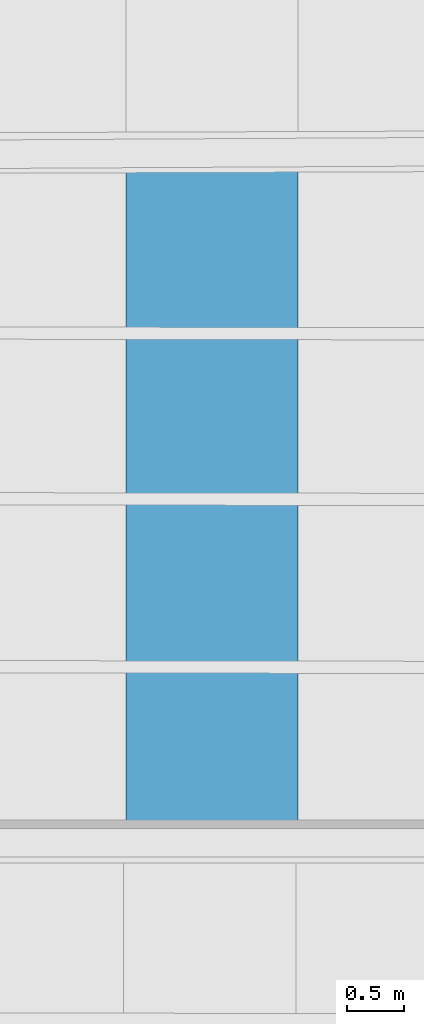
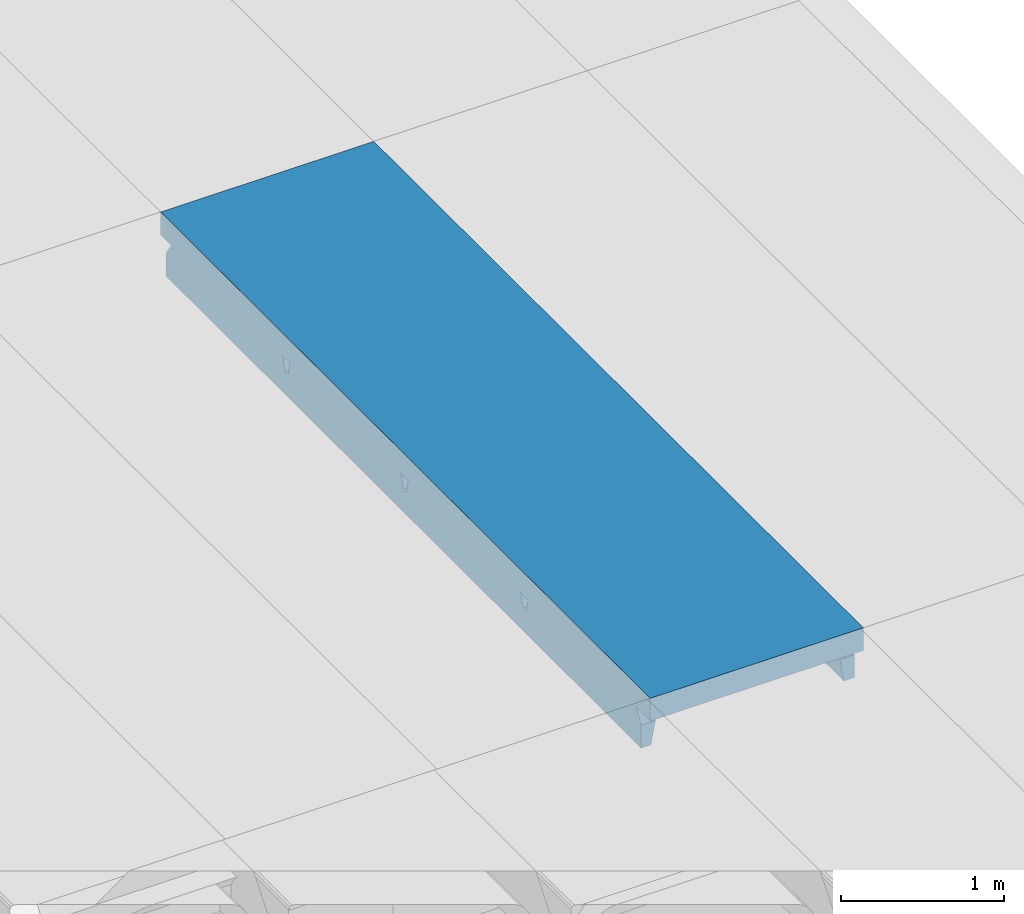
# One storey, part 57 of 301: 1 beam.
"""IFC2X3 building model written with IfcOpenShell, lengths in millimetres."""

import ifcopenshell
import ifcopenshell.guid

model = None  # the IFC model being written
_history = None  # IfcOwnerHistory: only IFC2X3 demands one
_inside = {}  # id of a spatial element -> (the spatial element, [elements in it])
_under = {}  # id of a project, library or spatial element -> (it, [spatial elements below it])
_declared = {}  # id of a project -> (the project, [libraries it declares])
_typed = {}  # id of a type object -> (the type object, [elements of that type])
_made_of = {}  # id of a material, layer set ... -> (it, [elements and type objects made of it])


def new_model(schema):
    """Start an empty IFC model of exactly this schema.

    Asked for "IFC4X3", IfcOpenShell would pick the latest addendum, in which some entities
    have other attributes; the version numbers below select the first issue.
    IFC2X3 requires an IfcOwnerHistory on every rooted entity: one is made here for all.
    """
    global model, _history
    if schema == "IFC4X3":
        model = ifcopenshell.file(schema_version=(4, 3, 0, 0))
    else:
        model = ifcopenshell.file(schema=schema)
    _inside.clear()
    _under.clear()
    _declared.clear()
    _typed.clear()
    _made_of.clear()
    _history = None
    if model.schema == "IFC2X3":
        org = make("IfcOrganization", Name="unknown")
        user = make(
            "IfcPersonAndOrganization",
            ThePerson=make("IfcPerson", FamilyName="unknown"),
            TheOrganization=org,
        )
        app = make(
            "IfcApplication",
            ApplicationDeveloper=org,
            Version="unknown",
            ApplicationFullName="unknown",
            ApplicationIdentifier="unknown",
        )
        _history = make(
            "IfcOwnerHistory",
            OwningUser=user,
            OwningApplication=app,
            ChangeAction="ADDED",
            CreationDate=0,
        )
    return model


def make(cls, **values):
    """One entity of the class cls with the attributes given. An attribute that is None is left unset."""
    return model.create_entity(
        cls, **{name: value for name, value in values.items() if value is not None}
    )


def entity(cls, *values):
    """Any entity or typed value of the class cls, its attributes in the order of the schema. None: left unset."""
    e = model.create_entity(cls)
    for i, value in enumerate(values):
        if value is not None:
            e[i] = value
    return e


def rooted(cls, **values):
    """An entity with a GlobalId (a new one), such as an element, a storey or a relation."""
    return make(cls, GlobalId=ifcopenshell.guid.new(), OwnerHistory=_history, **values)


def si_unit(unit_type, name, prefix=None):
    """IfcSIUnit, for example si_unit("LENGTHUNIT", "METRE", prefix="MILLI")."""
    return make("IfcSIUnit", UnitType=unit_type, Prefix=prefix, Name=name)


def converted_unit(unit_type, name, factor, base, dimensions=None, offset=None):
    """IfcConversionBasedUnit, such as the inch: factor (a typed value) times the base unit."""
    return make(
        "IfcConversionBasedUnit"
        if offset is None
        else "IfcConversionBasedUnitWithOffset",
        ConversionOffset=offset,
        Dimensions=None
        if dimensions is None
        else entity("IfcDimensionalExponents", *dimensions),
        UnitType=unit_type,
        Name=name,
        ConversionFactor=make(
            "IfcMeasureWithUnit", ValueComponent=factor, UnitComponent=base
        ),
    )


def derived_unit(unit_type, elements):
    """IfcDerivedUnit: a product of units, each with its exponent."""
    return make(
        "IfcDerivedUnit",
        Elements=[
            make("IfcDerivedUnitElement", Unit=unit, Exponent=power)
            for unit, power in elements
        ],
        UnitType=unit_type,
    )


def money_unit(currency):
    """IfcMonetaryUnit."""
    return make("IfcMonetaryUnit", Currency=currency)


def assignment(units):
    """IfcUnitAssignment: the units of a project."""
    return None if units is None else make("IfcUnitAssignment", Units=units)


def point(xyz):
    """IfcCartesianPoint."""
    return None if xyz is None else make("IfcCartesianPoint", Coordinates=xyz)


def direction(xyz):
    """IfcDirection."""
    return None if xyz is None else make("IfcDirection", DirectionRatios=xyz)


def frame(location, z_axis=None, x_axis=None):
    """IfcAxis2Placement3D, a coordinate frame: its origin and axes. An axis left out is left unset."""
    return make(
        "IfcAxis2Placement3D",
        Location=point(location),
        Axis=direction(z_axis),
        RefDirection=direction(x_axis),
    )


def origin_with_axes():
    """The frame at (0, 0, 0) with the z axis (0, 0, 1) and the x axis (1, 0, 0) written out."""
    return frame((0.0, 0.0, 0.0), z_axis=(0.0, 0.0, 1.0), x_axis=(1.0, 0.0, 0.0))


def place(relative_to, where):
    """IfcLocalPlacement: puts the frame where relative to a parent placement (None: the world)."""
    return make(
        "IfcLocalPlacement", PlacementRelTo=relative_to, RelativePlacement=where
    )


def context(
    kind, dimensions, precision=None, world=None, true_north=None, identifier=None
):
    """IfcGeometricRepresentationContext, for example the 3D "Model" context."""
    return make(
        "IfcGeometricRepresentationContext",
        ContextIdentifier=identifier,
        ContextType=kind,
        CoordinateSpaceDimension=dimensions,
        Precision=precision,
        WorldCoordinateSystem=world,
        TrueNorth=true_north,
    )


def subcontext(parent, identifier, kind, view, scale=None):
    """IfcGeometricRepresentationSubContext, for example "Body" below "Model"."""
    return make(
        "IfcGeometricRepresentationSubContext",
        ContextIdentifier=identifier,
        ContextType=kind,
        ParentContext=parent,
        TargetScale=scale,
        TargetView=view,
    )


def project(units=None, contexts=None):
    """IfcProject with its units and contexts."""
    return rooted(
        "IfcProject",
        Name="project",
        RepresentationContexts=contexts,
        UnitsInContext=assignment(units),
    )


def spatial(cls, under=None, at=None, **own):
    """A site, building, storey or space (cls), placed at a placement, below another one or the project."""
    s = rooted(cls, ObjectPlacement=at, **own)
    if under is not None:
        _under.setdefault(under.id(), (under, []))[1].append(s)
    return s


def faces_of(points, faces, orient=None, outer=None):
    """IfcFace entities. A face is a list of loops; a loop is a list of indices into points, from 0.

    orient and outer hold one flag for each loop. By default every Orientation is true, the
    first loop of a face is its IfcFaceOuterBound and the others are IfcFaceBound.
    """
    made = []
    for i, loops in enumerate(faces):
        bounds = []
        for j, loop in enumerate(loops):
            is_outer = j == 0 if outer is None else outer[i][j]
            bounds.append(
                make(
                    "IfcFaceOuterBound" if is_outer else "IfcFaceBound",
                    Bound=make("IfcPolyLoop", Polygon=[points[k] for k in loop]),
                    Orientation=True if orient is None else orient[i][j],
                )
            )
        made.append(make("IfcFace", Bounds=bounds))
    return made


def faceted_brep(points, faces, orient=None, outer=None, voids=None):
    """IfcFacetedBrep: a solid bounded by flat faces; with voids (closed shells), ...WithVoids."""
    shared = [point(p) for p in points]
    hull = make("IfcClosedShell", CfsFaces=faces_of(shared, faces, orient, outer))
    if voids is None:
        return make("IfcFacetedBrep", Outer=hull)
    return make(
        "IfcFacetedBrepWithVoids",
        Outer=hull,
        Voids=[
            make(cls, CfsFaces=faces_of(shared, fs, o, b)) for cls, fs, o, b in voids
        ],
    )


def shape(context_of_items, identifier, shape_type, items):
    """IfcShapeRepresentation: the items that make up one representation, for example the "Body"."""
    return make(
        "IfcShapeRepresentation",
        ContextOfItems=context_of_items,
        RepresentationIdentifier=identifier,
        RepresentationType=shape_type,
        Items=items,
    )


def material(Name=None, Category=None):
    """IfcMaterial."""
    return make("IfcMaterial", Name=Name, Category=Category)


def made_of(thing, what):
    """Note that an element or type object is made of a material, layer set ...; save() writes the relation."""
    if what is not None:
        _made_of.setdefault(what.id(), (what, []))[1].append(thing)
    return thing


def type_object(cls, material=None, **own):
    """A type object (cls), such as IfcWallType, which elements share."""
    return made_of(rooted(cls, **own), material)


def element(
    cls,
    number,
    at=None,
    inside=None,
    cuts=None,
    type_object=None,
    material=None,
    context=None,
    identifier="Body",
    shape_type=None,
    held_by="IfcProductDefinitionShape",
    body=None,
    shapes=None,
    **own,
):
    """One element of the class cls, such as IfcWall. Its Tag is "e" and its number.

    at: its placement. inside: the storey or other place that contains it. cuts: it is an
    opening in that element (IfcRelVoidsElement). A single representation is given by context,
    identifier, shape_type and body (its items); several are given by shapes. held_by: the class
    of the entity that holds the representations. save() writes the other relations.
    """
    e = rooted(cls, Tag="e%d" % number, ObjectPlacement=at, **own)
    if body is not None:
        shapes = [shape(context, identifier, shape_type, body)]
    if shapes is not None:
        e.Representation = make(held_by, Representations=shapes)
    if inside is not None:
        _inside.setdefault(inside.id(), (inside, []))[1].append(e)
    if cuts is not None:
        rooted(
            "IfcRelVoidsElement", RelatingBuildingElement=cuts, RelatedOpeningElement=e
        )
    if type_object is not None:
        _typed.setdefault(type_object.id(), (type_object, []))[1].append(e)
    return made_of(e, material)


def aggregate(whole, parts):
    """IfcRelAggregates: a whole, such as a stair, and the parts it consists of."""
    return rooted("IfcRelAggregates", RelatingObject=whole, RelatedObjects=parts)


def save(model, path):
    """Write the relations noted so far, then the file.

    IfcRelAggregates (storeys below a building ...), IfcRelContainedInSpatialStructure (elements
    in a storey), IfcRelDefinesByType, IfcRelAssociatesMaterial and IfcRelDeclares: one each for
    every whole, place, type object, material and project.
    """
    for whole, parts in _under.values():
        aggregate(whole, parts)
    for where, things in _inside.values():
        rooted(
            "IfcRelContainedInSpatialStructure",
            RelatedElements=things,
            RelatingStructure=where,
        )
    for kind, things in _typed.values():
        rooted("IfcRelDefinesByType", RelatedObjects=things, RelatingType=kind)
    for what, things in _made_of.values():
        rooted("IfcRelAssociatesMaterial", RelatedObjects=things, RelatingMaterial=what)
    for by, libraries in _declared.values():
        rooted("IfcRelDeclares", RelatingContext=by, RelatedDefinitions=libraries)
    model.write(path)


model = new_model("IFC2X3")

# Units and contexts
model_context = context("Model", 3, precision=0.01, world=origin_with_axes(), true_north=direction((0.0, 1.0)))
body_context = subcontext(model_context, "Body", "Model", "MODEL_VIEW")
ifc_project = project(units=[si_unit("LENGTHUNIT", "METRE", prefix="MILLI"), si_unit("AREAUNIT", "SQUARE_METRE"), si_unit("VOLUMEUNIT", "CUBIC_METRE"), converted_unit("PLANEANGLEUNIT", "DEGREE", entity("IfcPlaneAngleMeasure", 0.0174532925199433), si_unit("PLANEANGLEUNIT", "RADIAN"), dimensions=[0, 0, 0, 0, 0, 0, 0]), money_unit("EUR"), converted_unit("TIMEUNIT", "Year", entity("IfcTimeMeasure", 31557600.0), si_unit("TIMEUNIT", "SECOND"), dimensions=[0, 0, 1, 0, 0, 0, 0]), si_unit("MASSUNIT", "GRAM", prefix="KILO"), si_unit("THERMODYNAMICTEMPERATUREUNIT", "DEGREE_CELSIUS"), si_unit("LUMINOUSINTENSITYUNIT", "LUMEN"), si_unit("ENERGYUNIT", "JOULE", prefix="MEGA"), derived_unit("THERMALCONDUCTANCEUNIT", [(si_unit("POWERUNIT", "WATT"), 1), (si_unit("LENGTHUNIT", "METRE"), -1), (si_unit("THERMODYNAMICTEMPERATUREUNIT", "KELVIN"), -1)]), derived_unit("SPECIFICHEATCAPACITYUNIT", [(si_unit("ENERGYUNIT", "JOULE"), 1), (si_unit("MASSUNIT", "GRAM", prefix="KILO"), -1), (si_unit("THERMODYNAMICTEMPERATUREUNIT", "KELVIN"), -1)]), derived_unit("MASSDENSITYUNIT", [(si_unit("MASSUNIT", "GRAM", prefix="KILO"), 1), (si_unit("VOLUMEUNIT", "CUBIC_METRE"), -1)])], contexts=[model_context])

# Site, building, storey
site_placement = place(None, frame((0.0, 0.0, 8650.0), z_axis=(0.0, 0.0, 1.0), x_axis=(1.0, 0.0, 0.0)))
site = spatial("IfcSite", under=ifc_project, at=site_placement, Name="43301:001:0844", CompositionType="ELEMENT")
building_placement = place(site_placement, origin_with_axes())
building = spatial("IfcBuilding", under=site, at=building_placement, Name="Kuressaare Ametikooli tuulikute mehaanikute õppekorpus", CompositionType="ELEMENT")
storey_placement = place(building_placement, origin_with_axes())
storey = spatial("IfcBuildingStorey", under=building, at=storey_placement, Name="1.korrus", CompositionType="ELEMENT", Elevation=0.0)

# Beam
ifc_material = material(Name="GENEERILINE - KONSTRUKTRIOON")
beam_type = type_object("IfcBeamType", Name="Precast Double Tee 2 1510 x 440", PredefinedType="NOTDEFINED")
beam_placement = place(storey_placement, frame((99490.87775377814, 56127.70174196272, 7100.000000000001), z_axis=(0.0, 0.0, 1.0), x_axis=(-1.0, 0.0, 0.0)))
element("IfcBeam", 1, at=beam_placement, inside=storey, type_object=beam_type, material=ifc_material, context=body_context, shape_type="Brep", body=[
    faceted_brep([(-754.9999999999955, 167.8994265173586, -169.8235046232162), (-754.9999999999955, 36.32654776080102, -169.8235046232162), (-754.9999999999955, 36.32654776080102, 0.0), (-754.9999999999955, 6042.432711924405, 0.0), (-754.9999999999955, 6042.432711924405, -169.8234995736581), (-754.9999999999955, 5863.719828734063, -169.8234995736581), (-754.9999999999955, 5874.682376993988, -181.3563575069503), (-754.9999999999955, 5906.35485501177, -222.371808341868), (-754.9999999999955, 5931.946845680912, -267.4324680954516), (-754.9999999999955, 5931.947368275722, -440.0001340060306), (-754.9999999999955, 99.67144740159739, -440.0001340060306), (-754.9999999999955, 99.67196999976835, -267.4324731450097), (-754.9999999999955, 125.2641255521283, -222.3718133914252), (-754.9999999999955, 156.9368076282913, -181.3563625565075), (-754.9999999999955, 1541.04327558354, -184.1935020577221), (-754.9999999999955, 1561.78422292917, -271.7709778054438), (-754.9999999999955, 1601.784276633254, -271.7709778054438), (-754.9999999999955, 1622.524262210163, -184.1936973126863), (-754.9999999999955, 1627.09888170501, -175.39783429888), (-754.9999999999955, 1635.29773933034, -169.8234995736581), (-754.9999999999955, 1528.269844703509, -169.8234995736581), (-754.9999999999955, 1536.468635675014, -175.3977593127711), (-754.9999999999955, 3012.896485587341, -271.7709778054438), (-754.9999999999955, 3052.896539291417, -271.7709778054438), (-754.9999999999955, 3073.636524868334, -184.1936973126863), (-754.9999999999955, 3078.211144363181, -175.39783429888), (-754.9999999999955, 3086.410001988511, -169.8234995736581), (-754.9999999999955, 2979.38210736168, -169.8234995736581), (-754.9999999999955, 2987.580898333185, -175.3977593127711), (-754.9999999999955, 2992.155538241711, -184.1935020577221), (-754.9999999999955, 4523.756595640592, -271.7709778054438), (-754.9999999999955, 4544.496581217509, -184.1936973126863), (-754.9999999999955, 4549.071200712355, -175.39783429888), (-754.9999999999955, 4557.270058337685, -169.8234995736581), (-754.9999999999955, 4450.242163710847, -169.8234995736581), (-754.9999999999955, 4458.440954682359, -175.3977593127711), (-754.9999999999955, 4463.015594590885, -184.1935020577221), (-754.9999999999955, 4483.756541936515, -271.7709778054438), (-588.1481649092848, 168.5001747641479, -169.8235046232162), (-588.1481649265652, 36.32654776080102, -169.8235046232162), (754.9999999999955, 36.32654776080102, -169.8235046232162), (754.9999999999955, 36.32654776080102, 0.0), (590.5789219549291, 36.32654776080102, -169.8234995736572), (593.6993855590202, 36.32654776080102, -169.7351493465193), (594.211646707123, 36.32654776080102, -169.8235046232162), (754.9999999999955, 6042.432711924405, 0.0), (754.9999999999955, 6042.432711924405, -169.8234995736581), (594.2116174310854, 6042.432711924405, -169.8234995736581), (593.6993855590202, 6042.432711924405, -169.7351493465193), (590.5789219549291, 6042.432711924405, -169.8234995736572), (-588.1481649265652, 6042.432711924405, -169.8234995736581), (-588.148164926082, 5863.673245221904, -169.8234995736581), (-608.1505435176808, 5867.079437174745, -173.40101840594), (-621.4954151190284, 5874.64510373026, -181.3563575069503), (-625.6043121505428, 5876.537741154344, -183.8058130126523), (-638.2645371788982, 5888.8145931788, -199.6996008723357), (-644.5028387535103, 5903.74968414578, -219.0380957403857), (-645.0308501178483, 5906.324152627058, -222.371808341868), (-652.1678002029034, 5931.918135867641, -267.4324680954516), (-679.4999969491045, 5931.926289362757, -440.0001340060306), (-679.4999969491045, 99.94328435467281, -440.0001340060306), (-652.1678010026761, 100.0422162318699, -267.4324731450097), (-645.030850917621, 125.6600682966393, -222.3718133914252), (-644.5028387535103, 128.2363109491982, -219.0380957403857), (-638.2645371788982, 143.1922173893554, -199.6996008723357), (-625.6043121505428, 155.5111968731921, -183.8058130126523), (-621.495423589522, 157.4174894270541, -181.3563625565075), (-608.1505435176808, 165.0275318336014, -173.40101840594), (-625.9131265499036, 1540.83174610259, -184.1935020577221), (-638.2645371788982, 1544.524290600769, -199.6996008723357), (-644.5028387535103, 1549.114443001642, -219.0380957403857), (-652.8549567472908, 1561.616841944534, -271.7709778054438), (-652.8549567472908, 1601.616895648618, -271.7709778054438), (-644.5028387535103, 1614.091370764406, -219.0380957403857), (-638.2645371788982, 1618.660876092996, -199.6996008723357), (-625.9132820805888, 1622.312732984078, -184.1936973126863), (-625.6043121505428, 1622.513960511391, -183.8058130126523), (-611.5001495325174, 1626.86373425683, -175.39783429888), (-608.1505435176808, 1629.795207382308, -173.40101840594), (-588.1481649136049, 1635.024325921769, -169.8234995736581), (-588.1481649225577, 1527.996431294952, -169.8234995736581), (-608.1505435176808, 1533.291132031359, -173.40101840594), (-611.5000237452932, 1536.233488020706, -175.3977593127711), (-625.6043121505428, 1540.629604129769, -183.8058130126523), (-652.8549567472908, 3012.729104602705, -271.7709778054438), (-652.8549567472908, 3052.729158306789, -271.7709778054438), (-644.5028387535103, 3065.203633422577, -219.0380957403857), (-638.2645371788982, 3069.773138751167, -199.6996008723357), (-625.9132820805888, 3073.424995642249, -184.1936973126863), (-625.6043121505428, 3073.626223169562, -183.8058130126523), (-611.5001495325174, 3077.975996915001, -175.39783429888), (-608.1505435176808, 3080.907470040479, -173.40101840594), (-588.1481649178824, 3086.136588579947, -169.8234995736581), (-588.1481649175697, 2979.108693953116, -169.8234995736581), (-608.1505435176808, 2984.403394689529, -173.40101840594), (-611.5000237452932, 2987.345750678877, -175.3977593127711), (-625.6043121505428, 2991.74186678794, -183.8058130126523), (-625.9131265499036, 2991.944008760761, -184.1935020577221), (-638.2645371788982, 2995.63655325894, -199.6996008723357), (-644.5028387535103, 3000.226705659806, -219.0380957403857), (-638.2645371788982, 4540.633195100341, -199.6996008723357), (-625.9132820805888, 4544.285051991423, -184.1936973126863), (-652.8549567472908, 4523.589214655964, -271.7709778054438), (-644.5028387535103, 4536.063689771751, -219.0380957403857), (-625.6043121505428, 4544.486279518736, -183.8058130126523), (-611.5001495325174, 4548.836053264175, -175.39783429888), (-608.1505435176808, 4551.767526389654, -173.40101840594), (-588.1481649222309, 4556.996644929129, -169.8234995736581), (-588.148164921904, 4449.968750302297, -169.8234995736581), (-608.1505435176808, 4455.263451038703, -173.40101840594), (-611.5000237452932, 4458.205807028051, -175.3977593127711), (-625.6043121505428, 4462.601923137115, -183.8058130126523), (-625.9131265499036, 4462.804065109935, -184.1935020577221), (-644.5028387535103, 4471.08676200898, -219.0380957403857), (-652.8549567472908, 4483.589160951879, -271.7709778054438), (-638.2645371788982, 4466.496609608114, -199.6996008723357), (754.9999999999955, 173.3361653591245, -169.8235046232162), (754.9999999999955, 162.3735464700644, -181.3563625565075), (754.9999999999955, 130.7008643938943, -222.3718133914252), (754.9999999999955, 105.1087088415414, -267.4324731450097), (754.9999999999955, 105.1081862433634, -440.0001340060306), (754.9999999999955, 5931.52579003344, -440.0001340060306), (754.9999999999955, 5931.525267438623, -267.4324680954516), (754.9999999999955, 5905.933276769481, -222.371808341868), (754.9999999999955, 5874.260798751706, -181.3563575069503), (754.9999999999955, 5863.298250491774, -169.8234995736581), (754.9999999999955, 1624.624505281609, -175.39783429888), (754.9999999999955, 1620.049885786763, -184.1936973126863), (754.9999999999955, 1599.309900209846, -271.7709778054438), (754.9999999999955, 1559.309846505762, -271.7709778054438), (754.9999999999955, 1538.56889916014, -184.1935020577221), (754.9999999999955, 1533.994259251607, -175.3977593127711), (754.9999999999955, 1525.795468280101, -169.8234995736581), (754.9999999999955, 1632.823362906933, -169.8234995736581), (754.9999999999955, 3071.162148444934, -184.1936973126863), (754.9999999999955, 3050.422162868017, -271.7709778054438), (754.9999999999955, 3010.422109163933, -271.7709778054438), (754.9999999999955, 2989.681161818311, -184.1935020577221), (754.9999999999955, 2985.106521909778, -175.3977593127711), (754.9999999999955, 2976.907730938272, -169.8234995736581), (754.9999999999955, 3083.935625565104, -169.8234995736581), (754.9999999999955, 3075.73676793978, -175.39783429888), (754.9999999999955, 4521.282219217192, -271.7709778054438), (754.9999999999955, 4481.282165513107, -271.7709778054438), (754.9999999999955, 4460.541218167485, -184.1935020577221), (754.9999999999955, 4455.966578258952, -175.3977593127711), (754.9999999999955, 4447.767787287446, -169.8234995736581), (754.9999999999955, 4554.795681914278, -169.8234995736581), (754.9999999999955, 4546.596824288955, -175.39783429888), (754.9999999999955, 4542.022204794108, -184.1936973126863), (594.211646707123, 172.7572486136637, -169.8235046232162), (594.2116174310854, 5863.343141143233, -169.8234995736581), (610.5576441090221, 5866.018534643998, -172.6428773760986), (610.5576441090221, 4550.885569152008, -172.6428773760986), (594.2116174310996, 4555.059159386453, -169.8234995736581), (594.2116174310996, 4448.031264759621, -169.8234995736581), (610.5576441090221, 4452.151305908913, -172.6428773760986), (610.5576441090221, 3080.025512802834, -172.6428773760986), (594.2116174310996, 3084.199103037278, -169.8234995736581), (594.2116174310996, 2977.171208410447, -169.8234995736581), (610.5576441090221, 2981.291249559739, -172.6428773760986), (610.5576441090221, 1628.91325014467, -172.6428773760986), (594.2116174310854, 1633.086840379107, -169.8234995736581), (594.2116174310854, 1526.058945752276, -169.8234995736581), (610.5576441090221, 1530.178986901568, -172.6428773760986), (610.5576441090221, 170.1361325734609, -172.6428773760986), (625.4118792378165, 162.1234681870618, -181.1285984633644), (625.6051084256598, 161.9076615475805, -181.3563625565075), (636.4790028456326, 152.0490967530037, -194.1736948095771), (642.4305280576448, 139.6853408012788, -210.2122455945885), (644.6584606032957, 130.3035808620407, -222.3718133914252), (652.9146841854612, 104.7411517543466, -267.4324731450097), (684.5333333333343, 104.8544717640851, -440.0001340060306), (684.5333333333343, 5931.545463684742, -440.0001340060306), (652.9146832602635, 5931.553768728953, -267.4324680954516), (644.658459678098, 5905.964083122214, -222.371808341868), (625.6051041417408, 5874.2969246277, -181.3563575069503), (642.4305280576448, 5896.574987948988, -210.2122455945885), (636.4790028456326, 5884.191545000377, -194.1736948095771), (625.4118792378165, 5874.080482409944, -181.1285984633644), (625.4118792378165, 1621.856356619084, -181.1285984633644), (628.0122301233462, 1620.257975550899, -184.1936973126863), (615.3801898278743, 1624.853294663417, -175.39783429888), (642.4305280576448, 1614.072655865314, -210.2122455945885), (653.7096051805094, 1599.475880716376, -271.7709778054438), (636.4790028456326, 1617.880645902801, -194.1736948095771), (653.7096051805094, 1559.475827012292, -271.7709778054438), (642.4305280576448, 1544.915373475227, -210.2122455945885), (636.4790028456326, 1541.126720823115, -194.1736948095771), (628.0120644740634, 1538.776989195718, -184.1935020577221), (615.3800585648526, 1534.22304884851, -175.3977593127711), (625.4118792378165, 1537.187202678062, -181.1285984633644), (653.7096051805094, 3050.588143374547, -271.7709778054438), (628.0122301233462, 3071.37023820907, -184.1936973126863), (636.4790028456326, 3068.992908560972, -194.1736948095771), (642.4305280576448, 3065.184918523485, -210.2122455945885), (653.7096051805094, 3010.588089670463, -271.7709778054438), (642.4305280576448, 2996.027636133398, -210.2122455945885), (636.4790028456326, 2992.238983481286, -194.1736948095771), (628.0120644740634, 2989.889251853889, -184.1935020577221), (625.4118792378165, 2988.299465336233, -181.1285984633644), (615.3800585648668, 2985.335311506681, -175.3977593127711), (615.3801898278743, 3075.965557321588, -175.39783429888), (625.4118792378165, 3072.968619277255, -181.1285984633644), (653.7096051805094, 4521.448199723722, -271.7709778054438), (653.7096051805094, 4481.448146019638, -271.7709778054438), (642.4305280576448, 4466.887692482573, -210.2122455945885), (636.4790028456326, 4463.09903983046, -194.1736948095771), (628.0120644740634, 4460.749308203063, -184.1935020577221), (625.4118792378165, 4459.159521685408, -181.1285984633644), (615.3800585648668, 4456.195367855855, -175.3977593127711), (615.3801898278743, 4546.825613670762, -175.39783429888), (625.4118792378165, 4543.828675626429, -181.1285984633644), (628.0122301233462, 4542.230294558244, -184.1936973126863), (636.4790028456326, 4539.852964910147, -194.1736948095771), (642.4305280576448, 4536.04497487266, -210.2122455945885)], [[[0, 1, 2, 3, 4, 5, 6, 7, 8, 9, 10, 11, 12, 13], [14, 15, 16, 17, 18, 19, 20, 21], [22, 23, 24, 25, 26, 27, 28, 29], [30, 31, 32, 33, 34, 35, 36, 37]], [[38, 39, 1, 0]], [[40, 41, 2, 1, 39, 42, 43, 44]], [[3, 2, 41, 45]], [[45, 46, 47, 48, 49, 50, 4, 3]], [[51, 5, 4, 50]], [[6, 5, 51, 52, 53]], [[53, 54, 55, 56, 57, 7, 6]], [[58, 8, 7, 57]], [[59, 9, 8, 58]], [[10, 9, 59, 60]], [[60, 61, 11, 10]], [[61, 62, 12, 11]], [[12, 62, 63, 64, 65, 66, 13]], [[38, 0, 13, 66, 67]], [[68, 69, 70, 71, 15, 14]], [[16, 15, 71, 72]], [[72, 73, 74, 75, 17, 16]], [[17, 75, 76, 77, 18]], [[18, 77, 78, 79, 19]], [[20, 19, 79, 80]], [[20, 80, 81, 82, 21]], [[21, 82, 83, 68, 14]], [[22, 84, 85, 23]], [[86, 87, 88, 24, 23, 85]], [[88, 89, 90, 25, 24]], [[90, 91, 92, 26, 25]], [[26, 92, 93, 27]], [[93, 94, 95, 28, 27]], [[95, 96, 97, 29, 28]], [[98, 99, 84, 22, 29, 97]], [[100, 101, 31, 30, 102, 103]], [[104, 105, 32, 31, 101]], [[106, 107, 33, 32, 105]], [[107, 108, 34, 33]], [[109, 110, 35, 34, 108]], [[111, 112, 36, 35, 110]], [[113, 114, 37, 36, 112, 115]], [[114, 102, 30, 37]], [[49, 42, 39, 38, 80, 79, 93, 92, 108, 107, 51, 50]], [[45, 41, 40, 116, 117, 118, 119, 120, 121, 122, 123, 124, 125, 46], [126, 127, 128, 129, 130, 131, 132, 133], [134, 135, 136, 137, 138, 139, 140, 141], [142, 143, 144, 145, 146, 147, 148, 149]], [[48, 43, 42, 49]], [[150, 44, 43, 48, 47, 151, 152, 153, 154, 155, 156, 157, 158, 159, 160, 161, 162, 163, 164, 165]], [[116, 40, 44, 150]], [[125, 151, 47, 46]], [[52, 51, 107, 106]], [[52, 106, 105, 104, 54, 53]], [[54, 104, 101, 100, 55]], [[56, 55, 100, 103]], [[57, 56, 103, 102, 114, 113, 86, 85, 84, 99, 73, 72, 71, 70, 63, 62, 61, 60, 59, 58]], [[70, 69, 64, 63]], [[83, 65, 64, 69, 68]], [[67, 66, 65, 83, 82, 81]], [[81, 80, 38, 67]], [[98, 74, 73, 99]], [[75, 74, 98, 97, 96, 76]], [[77, 76, 96, 95, 94, 78]], [[93, 79, 78, 94]], [[87, 86, 113, 115]], [[87, 115, 112, 111, 89, 88]], [[89, 111, 110, 109, 91, 90]], [[92, 91, 109, 108]], [[150, 165, 166, 167, 117, 116]], [[167, 168, 169, 170, 118, 117]], [[119, 118, 170, 171]], [[120, 119, 171, 172]], [[172, 173, 121, 120]], [[121, 173, 174, 122]], [[122, 174, 175, 123]], [[176, 124, 123, 175, 177, 178]], [[151, 125, 124, 176, 179, 152]], [[180, 181, 127, 126, 182]], [[183, 184, 128, 127, 181, 185]], [[184, 186, 129, 128]], [[130, 129, 186, 187, 188, 189]], [[190, 131, 130, 189, 191]], [[163, 132, 131, 190, 164]], [[163, 162, 133, 132]], [[161, 182, 126, 133, 162]], [[192, 135, 134, 193, 194, 195]], [[196, 136, 135, 192]], [[136, 196, 197, 198, 199, 137]], [[138, 137, 199, 200, 201]], [[139, 138, 201, 160, 159]], [[158, 140, 139, 159]], [[202, 141, 140, 158, 157]], [[193, 134, 141, 202, 203]], [[143, 142, 204, 205]], [[205, 206, 207, 208, 144, 143]], [[144, 208, 209, 210, 145]], [[145, 210, 156, 155, 146]], [[147, 146, 155, 154]], [[148, 147, 154, 153, 211]], [[149, 148, 211, 212, 213]], [[142, 149, 213, 214, 215, 204]], [[179, 212, 211, 153, 152]], [[157, 156, 210, 209, 203, 202]], [[182, 161, 160, 201, 200, 180]], [[191, 166, 165, 164, 190]], [[168, 167, 166, 191, 189, 188]], [[188, 187, 169, 168]], [[206, 205, 204, 215, 177, 175, 174, 173, 172, 171, 170, 169, 187, 186, 184, 183, 197, 196, 192, 195]], [[178, 177, 215, 214]], [[178, 214, 213, 212, 179, 176]], [[181, 180, 200, 199, 198, 185]], [[197, 183, 185, 198]], [[203, 209, 208, 207, 194, 193]], [[195, 194, 207, 206]]]),
])

save(model, "model.ifc")
